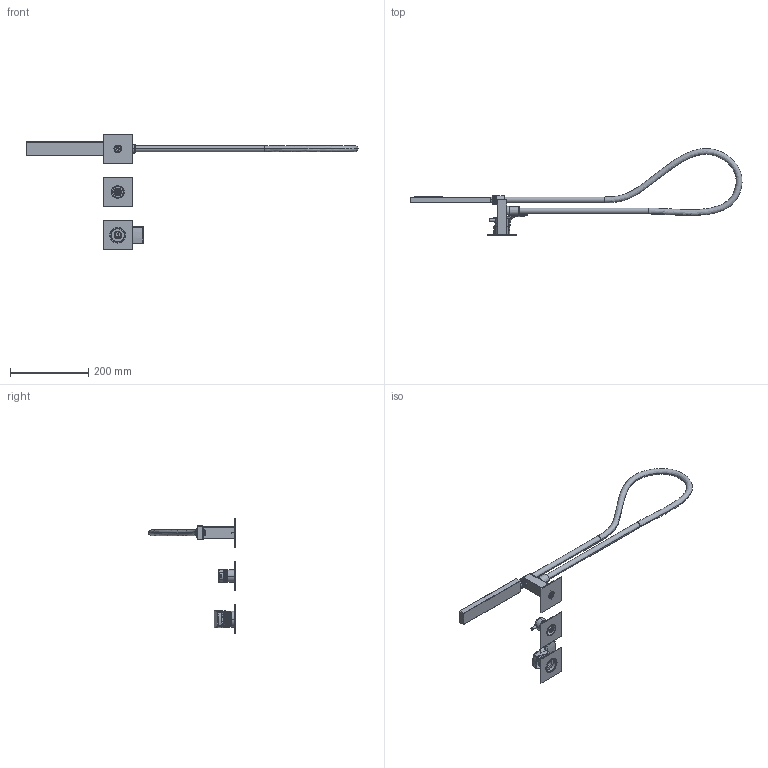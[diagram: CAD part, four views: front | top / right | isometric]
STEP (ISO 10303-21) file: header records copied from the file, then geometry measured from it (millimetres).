
FILE_DESCRIPTION((''),'2;1');
FILE_NAME('3D_SW0002','2024-09-30T11:55:58',('volponeff'),(''),'CREO PARAMETRIC BY PTC INC, 2022014','CREO PARAMETRIC BY PTC INC, 2022014','');
FILE_SCHEMA(('CONFIG_CONTROL_DESIGN'));
Products named in the file (1): 3D_SW0002
Bounding box: 846.16 x 221.1 x 295 mm (x, y, z)
Volume: 453380.5 mm3; surface area: 214069.8 mm2
Topology: 8 solids, 8 shells, 1893 faces, 4736 edges, 2935 vertices
Faces by surface type: cylinder 604, plane 480, torus 362, cone 257, bspline 168, sphere 22
Entity records: 127827 total; most frequent: CARTESIAN_POINT 83770, ORIENTED_EDGE 9420, DIRECTION 8974, EDGE_CURVE 4710, AXIS2_PLACEMENT_3D 3648, VERTEX_POINT 2935, EDGE_LOOP 2091, CIRCLE 1923
